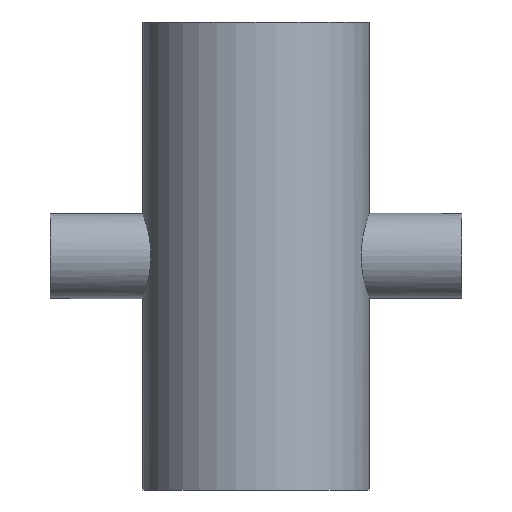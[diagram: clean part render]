
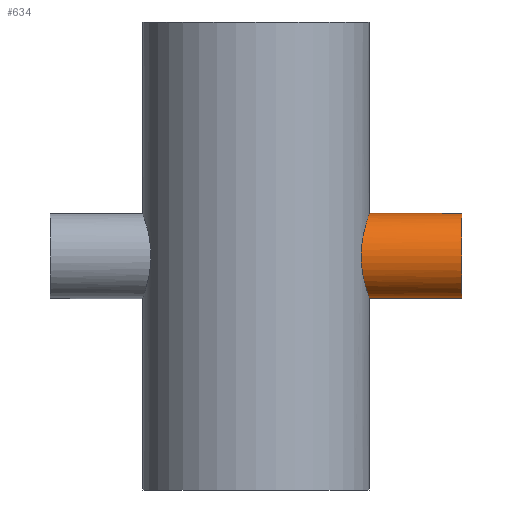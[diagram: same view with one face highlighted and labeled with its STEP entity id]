
A CAD part, front view. The second image highlights one B-rep face of the part: STEP entity #634.
In plain terms, the highlighted cylindrical face has radius 19.05 mm (diameter 38.1 mm), a partial arc.
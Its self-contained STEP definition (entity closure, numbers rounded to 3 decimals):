
#2 = CARTESIAN_POINT ( 'NONE',  ( 47.837, -17.102, -8.482 ) ) ;
#5 = CARTESIAN_POINT ( 'NONE',  ( 48.045, -16.518, -9.571 ) ) ;
#8 = CARTESIAN_POINT ( 'NONE',  ( 48.501, -15.128, -11.644 ) ) ;
#11 = CARTESIAN_POINT ( 'NONE',  ( 48.741, -14.343, -12.597 ) ) ;
#15 = CARTESIAN_POINT ( 'NONE',  ( 49.1, -13.039, -13.902 ) ) ;
#18 = CARTESIAN_POINT ( 'NONE',  ( 49.22, -12.582, -14.317 ) ) ;
#35 = CARTESIAN_POINT ( 'NONE',  ( 50.8, 0., -19.05 ) ) ;
#46 = CARTESIAN_POINT ( 'NONE',  ( 49.454, -11.625, -15.105 ) ) ;
#50 = VERTEX_POINT ( 'NONE', #35 ) ;
#52 = CARTESIAN_POINT ( 'NONE',  ( 49.57, -11.122, -15.478 ) ) ;
#55 = CARTESIAN_POINT ( 'NONE',  ( 49.9, -9.576, -16.515 ) ) ;
#61 = CARTESIAN_POINT ( 'NONE',  ( 50.1, -8.486, -17.101 ) ) ;
#64 = CARTESIAN_POINT ( 'NONE',  ( 50.31, -7.047, -17.701 ) ) ;
#67 = CARTESIAN_POINT ( 'NONE',  ( 47.155, -18.896, 2.498 ) ) ;
#70 = CARTESIAN_POINT ( 'NONE',  ( 50.35, -6.756, -17.815 ) ) ;
#72 = CARTESIAN_POINT ( 'NONE',  ( 50.425, -6.165, -18.028 ) ) ;
#73 = LINE ( 'NONE', #703, #590 ) ;
#76 = CARTESIAN_POINT ( 'NONE',  ( 50.461, -5.865, -18.128 ) ) ;
#78 = CARTESIAN_POINT ( 'NONE',  ( 47.093, -19.051, 0.604 ) ) ;
#82 = CARTESIAN_POINT ( 'NONE',  ( 50.561, -4.963, -18.403 ) ) ;
#86 = CARTESIAN_POINT ( 'NONE',  ( 47.192, -18.803, 3.12 ) ) ;
#89 = CARTESIAN_POINT ( 'NONE',  ( 47.105, -19.02, 1.237 ) ) ;
#96 = VERTEX_POINT ( 'NONE', #586 ) ;
#113 = EDGE_LOOP ( 'NONE', ( #381, #808, #584, #184 ) ) ;
#115 = CARTESIAN_POINT ( 'NONE',  ( 50.617, -4.356, -18.556 ) ) ;
#117 = CARTESIAN_POINT ( 'NONE',  ( 47.338, -18.435, 4.96 ) ) ;
#122 = CARTESIAN_POINT ( 'NONE',  ( 50.183, -7.917, 17.338 ) ) ;
#126 = CARTESIAN_POINT ( 'NONE',  ( 50.752, -2.518, -18.924 ) ) ;
#142 = CARTESIAN_POINT ( 'NONE',  ( 50.8, -1.271, -19.05 ) ) ;
#177 = AXIS2_PLACEMENT_3D ( 'NONE', #481, #271, #527 ) ;
#184 = ORIENTED_EDGE ( 'NONE', *, *, #453, .T. ) ;
#197 = CARTESIAN_POINT ( 'NONE',  ( 50.8, 0., -19.05 ) ) ;
#206 = VERTEX_POINT ( 'NONE', #445 ) ;
#271 = DIRECTION ( 'NONE',  ( 1., 0., 0. ) ) ;
#298 = FACE_OUTER_BOUND ( 'NONE', #113, .T. ) ;
#305 = DIRECTION ( 'NONE',  ( 1., 0., 0. ) ) ;
#337 = CARTESIAN_POINT ( 'NONE',  ( 47.573, -17.818, -6.768 ) ) ;
#349 = CARTESIAN_POINT ( 'NONE',  ( 50.091, -8.478, 17.071 ) ) ;
#351 = DIRECTION ( 'NONE',  ( 1., 0., 0. ) ) ;
#363 = EDGE_CURVE ( 'NONE', #96, #206, #73, .T. ) ;
#381 = ORIENTED_EDGE ( 'NONE', *, *, #363, .F. ) ;
#395 = CYLINDRICAL_SURFACE ( 'NONE', #177, 19.05 ) ;
#445 = CARTESIAN_POINT ( 'NONE',  ( 92.075, 0., 19.05 ) ) ;
#446 = EDGE_CURVE ( 'NONE', #50, #810, #489, .T. ) ;
#453 = EDGE_CURVE ( 'NONE', #810, #206, #480, .T. ) ;
#480 = CIRCLE ( 'NONE', #754, 19.05 ) ;
#481 = CARTESIAN_POINT ( 'NONE',  ( -92.075, 0., 0. ) ) ;
#489 = LINE ( 'NONE', #854, #817 ) ;
#527 = DIRECTION ( 'NONE',  ( 0., 0., -1. ) ) ;
#584 = ORIENTED_EDGE ( 'NONE', *, *, #446, .T. ) ;
#586 = CARTESIAN_POINT ( 'NONE',  ( 50.8, 0., 19.05 ) ) ;
#590 = VECTOR ( 'NONE', #351, 1000. ) ;
#609 = CARTESIAN_POINT ( 'NONE',  ( 92.075, 0., -19.05 ) ) ;
#619 = CARTESIAN_POINT ( 'NONE',  ( 48.499, -15.122, 11.603 ) ) ;
#625 = CARTESIAN_POINT ( 'NONE',  ( 92.075, 0., 0. ) ) ;
#634 = ADVANCED_FACE ( 'NONE', ( #298 ), #395, .T. ) ;
#635 = CARTESIAN_POINT ( 'NONE',  ( 48.382, -15.49, 11.106 ) ) ;
#643 = CARTESIAN_POINT ( 'NONE',  ( 48.044, -16.52, 9.567 ) ) ;
#647 = CARTESIAN_POINT ( 'NONE',  ( 47.835, -17.108, 8.474 ) ) ;
#685 = CARTESIAN_POINT ( 'NONE',  ( 47.479, -18.073, 6.153 ) ) ;
#687 = DIRECTION ( 'NONE',  ( 0., 0., -1. ) ) ;
#691 = DIRECTION ( 'NONE',  ( -1., 0., 0. ) ) ;
#703 = CARTESIAN_POINT ( 'NONE',  ( -92.075, 0., 19.05 ) ) ;
#713 = EDGE_CURVE ( 'NONE', #50, #96, #800, .T. ) ;
#749 = CARTESIAN_POINT ( 'NONE',  ( 48.738, -14.334, 12.563 ) ) ;
#754 = AXIS2_PLACEMENT_3D ( 'NONE', #625, #691, #687 ) ;
#759 = CARTESIAN_POINT ( 'NONE',  ( 49.942, -9.303, 16.627 ) ) ;
#767 = CARTESIAN_POINT ( 'NONE',  ( 49.89, -9.576, 16.471 ) ) ;
#769 = CARTESIAN_POINT ( 'NONE',  ( 48.859, -13.915, 13.025 ) ) ;
#786 = CARTESIAN_POINT ( 'NONE',  ( 47.093, -19.048, -1.279 ) ) ;
#794 = CARTESIAN_POINT ( 'NONE',  ( 47.144, -18.924, -2.522 ) ) ;
#800 = B_SPLINE_CURVE_WITH_KNOTS ( 'NONE', 3,
 ( #197, #142, #126, #115, #82, #76, #72, #70, #64, #61, #55, #52, #46, #18, #15, #11, #8, #5, #2, #337, #852, #835, #829, #794, #786, #78, #89, #67, #86, #117, #685, #647, #643, #635, #619, #749, #769, #840, #862, #916, #914, #767, #759, #349, #122, #918, #909, #907, #901, #897, #869, #866 ),
 .UNSPECIFIED., .F., .F.,
 ( 4, 2, 2, 2, 2, 2, 2, 2, 2, 2, 2, 2, 2, 2, 2, 2, 2, 2, 2, 2, 2, 2, 2, 2, 2, 4 ),
 ( 0.06, 0.064, 0.066, 0.067, 0.068, 0.071, 0.073, 0.075, 0.079, 0.083, 0.084, 0.086, 0.09, 0.092, 0.094, 0.098, 0.101, 0.103, 0.105, 0.109, 0.11, 0.111, 0.113, 0.116, 0.118, 0.12 ),
 .UNSPECIFIED. ) ;
#808 = ORIENTED_EDGE ( 'NONE', *, *, #713, .F. ) ;
#810 = VERTEX_POINT ( 'NONE', #609 ) ;
#817 = VECTOR ( 'NONE', #305, 1000. ) ;
#829 = CARTESIAN_POINT ( 'NONE',  ( 47.291, -18.553, -4.369 ) ) ;
#835 = CARTESIAN_POINT ( 'NONE',  ( 47.352, -18.397, -4.985 ) ) ;
#840 = CARTESIAN_POINT ( 'NONE',  ( 49.219, -12.606, 14.336 ) ) ;
#852 = CARTESIAN_POINT ( 'NONE',  ( 47.493, -18.03, -6.183 ) ) ;
#854 = CARTESIAN_POINT ( 'NONE',  ( -92.075, 0., -19.05 ) ) ;
#862 = CARTESIAN_POINT ( 'NONE',  ( 49.456, -11.656, 15.118 ) ) ;
#866 = CARTESIAN_POINT ( 'NONE',  ( 50.8, 0., 19.05 ) ) ;
#869 = CARTESIAN_POINT ( 'NONE',  ( 50.8, -0.635, 19.05 ) ) ;
#897 = CARTESIAN_POINT ( 'NONE',  ( 50.788, -1.268, 19.018 ) ) ;
#901 = CARTESIAN_POINT ( 'NONE',  ( 50.741, -2.526, 18.892 ) ) ;
#907 = CARTESIAN_POINT ( 'NONE',  ( 50.706, -3.155, 18.797 ) ) ;
#909 = CARTESIAN_POINT ( 'NONE',  ( 50.568, -5.01, 18.423 ) ) ;
#914 = CARTESIAN_POINT ( 'NONE',  ( 49.785, -10.11, 16.149 ) ) ;
#916 = CARTESIAN_POINT ( 'NONE',  ( 49.731, -10.372, 15.982 ) ) ;
#918 = CARTESIAN_POINT ( 'NONE',  ( 50.434, -6.2, 18.056 ) ) ;
